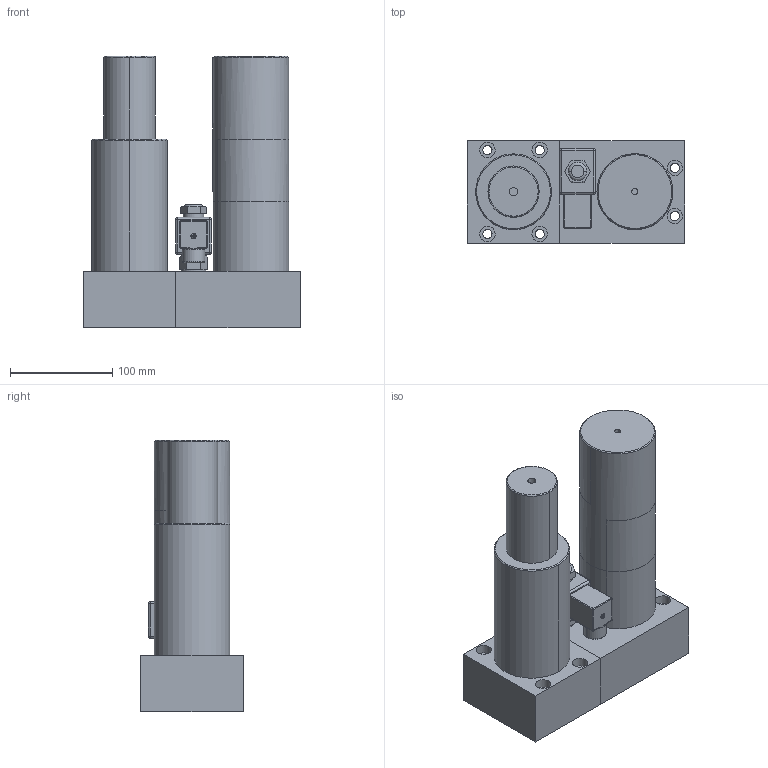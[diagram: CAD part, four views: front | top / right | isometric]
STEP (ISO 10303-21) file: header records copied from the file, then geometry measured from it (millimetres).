
FILE_DESCRIPTION(('CATIA V5 STEP Exchange'),'2;1');
FILE_NAME('W:\LIBRERIA TECAPRES®\DIBUJOS STRACK 2012\TPMC 2015\TPMC 3000\TPMCA 3000x80.stp','2015-11-03T16:37:20+00:00',('none'),('none'),'CATIA Version 5 Release 17 (IN-10)','CATIA V5 STEP AP203','none');
FILE_SCHEMA(('CONFIG_CONTROL_DESIGN'));
Length unit declared in the file: millimetre
Products named in the file (1): TPMCA 3000x80
Bounding box: 212 x 100 x 265 mm (x, y, z)
Volume: 2853061.5 mm3; surface area: 225622.2 mm2
Topology: 6 solids, 6 shells, 182 faces, 426 edges, 257 vertices
Faces by surface type: cylinder 68, plane 67, revolution 18, sphere 12, torus 9, cone 6, bspline 2
Entity records: 5516 total; most frequent: CARTESIAN_POINT 1692, ORIENTED_EDGE 824, DIRECTION 611, EDGE_CURVE 412, AXIS2_PLACEMENT_3D 295, VERTEX_POINT 257, EDGE_LOOP 209, ADVANCED_FACE 182
